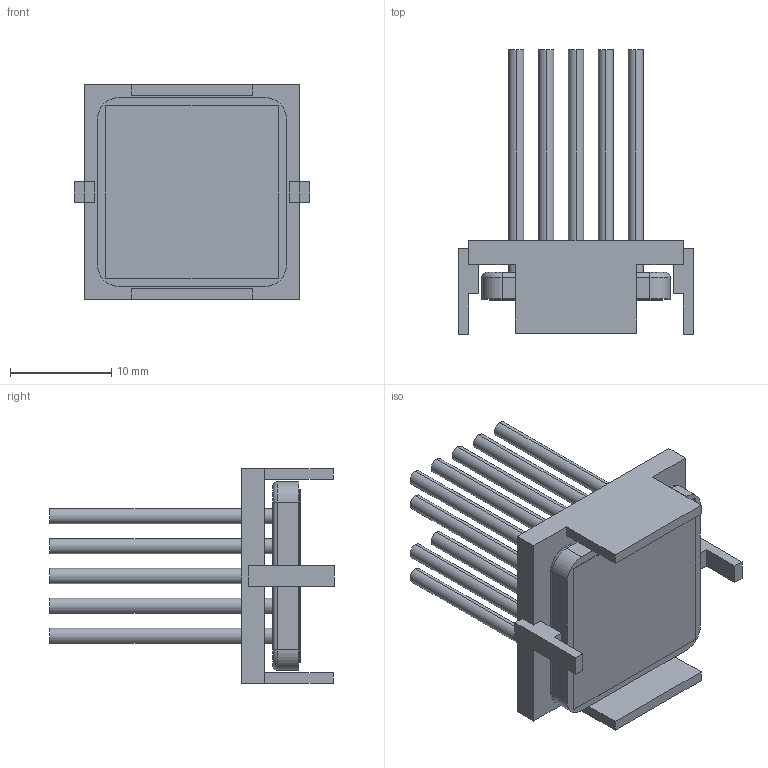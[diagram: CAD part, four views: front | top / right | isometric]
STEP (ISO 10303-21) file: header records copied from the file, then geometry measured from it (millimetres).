
FILE_DESCRIPTION (( 'STEP AP214' ), '1' );
FILE_NAME ('INM19002-25PCU-2.6Y.STEP', '2023-03-02T22:41:46', ( '' ), ( '' ), 'SwSTEP 2.0', 'SolidWorks 2020', '' );
FILE_SCHEMA (( 'AUTOMOTIVE_DESIGN' ));
Length unit declared in the file: millimetre
Products named in the file (1): INM19002-25PCU-2.6Y
Bounding box: 23.2 x 28.1 x 21.2 mm (x, y, z)
Volume: 2572.9 mm3; surface area: 4998.9 mm2
Topology: 3 solids, 3 shells, 133 faces, 310 edges, 204 vertices
Faces by surface type: plane 79, cylinder 50, torus 4
Entity records: 5323 total; most frequent: DIRECTION 682, CARTESIAN_POINT 648, ORIENTED_EDGE 620, EDGE_CURVE 310, AXIS2_PLACEMENT_3D 238, VECTOR 206, LINE 206, VERTEX_POINT 204
